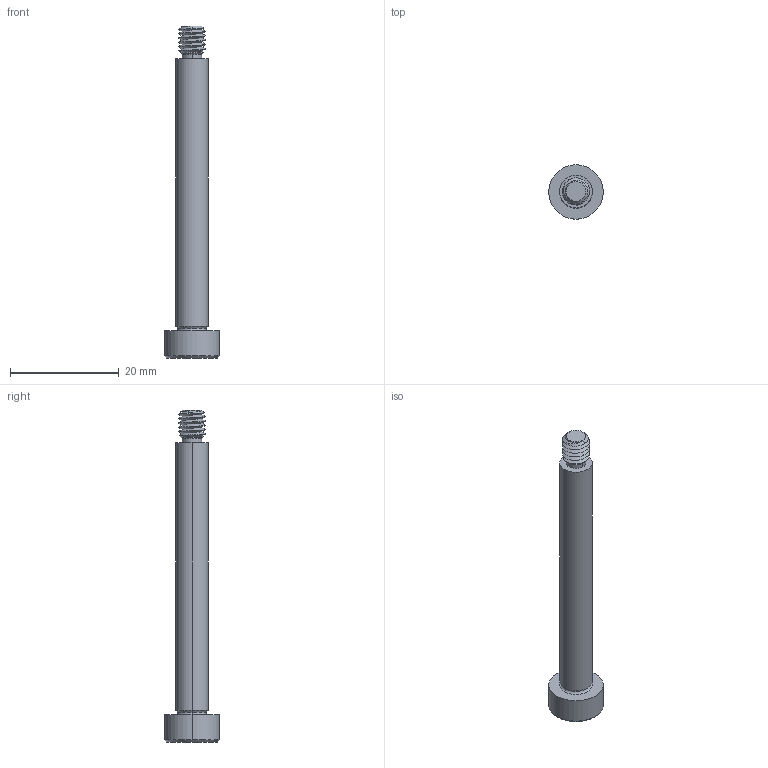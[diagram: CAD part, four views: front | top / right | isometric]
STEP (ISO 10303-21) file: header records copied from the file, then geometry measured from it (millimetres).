
FILE_DESCRIPTION (( 'STEP AP203' ), '1' );
FILE_NAME ('P0130.060-050-B2.step', '2021-11-09T21:29:04', ( '' ), ( '' ), 'SwSTEP 2.0', 'SolidWorks 2019', '' );
FILE_SCHEMA (( 'CONFIG_CONTROL_DESIGN' ));
Length unit declared in the file: millimetre
Products named in the file (1): P0130.060-050-B2
Bounding box: 10 x 10 x 61 mm (x, y, z)
Volume: 1858.5 mm3; surface area: 1430 mm2
Topology: 1 solids, 1 shells, 53 faces, 121 edges, 71 vertices
Faces by surface type: cylinder 17, plane 16, cone 14, torus 4, bspline 2
Entity records: 2367 total; most frequent: CARTESIAN_POINT 1186, ORIENTED_EDGE 238, DIRECTION 226, EDGE_CURVE 119, AXIS2_PLACEMENT_3D 92, VERTEX_POINT 71, EDGE_LOOP 56, ADVANCED_FACE 53
